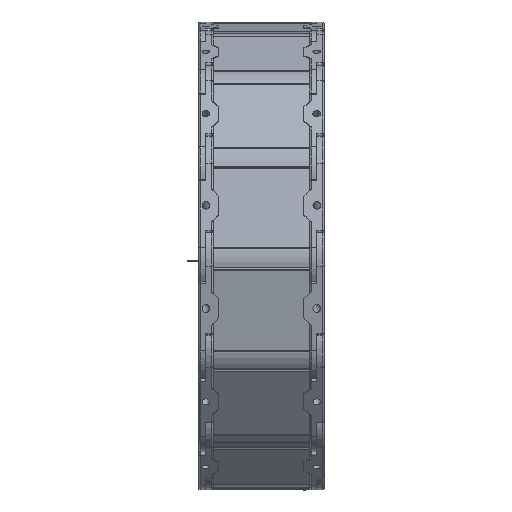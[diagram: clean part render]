
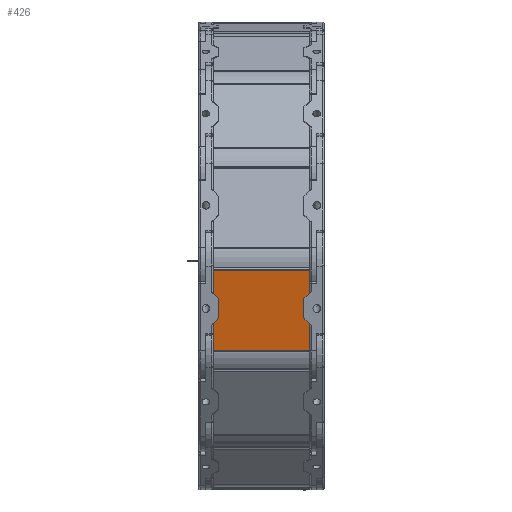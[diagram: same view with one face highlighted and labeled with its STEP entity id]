
A CAD part, front view. The second image highlights one B-rep face of the part: STEP entity #426.
In plain terms, the highlighted planar face has unit normal (0, -0.978, -0.208) as drawn and (0, 0, -1) by its records, which use the part's own axes.
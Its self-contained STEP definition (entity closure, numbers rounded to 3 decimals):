
#200=CARTESIAN_POINT('',(15.,61.0,1.));
#201=VERTEX_POINT('',#200);
#233=CARTESIAN_POINT('',(15.,89.782,1.));
#234=VERTEX_POINT('',#233);
#242=CARTESIAN_POINT('',(15.,83.92,1.));
#243=VERTEX_POINT('',#242);
#244=CARTESIAN_POINT('',(15.,83.92,1.));
#245=DIRECTION('',(0.0,1.0,0.0));
#246=VECTOR('',#245,5.863);
#247=LINE('',#244,#246);
#248=EDGE_CURVE('',#243,#234,#247,.T.);
#266=CARTESIAN_POINT('',(15.,82.64,1.));
#267=VERTEX_POINT('',#266);
#274=CARTESIAN_POINT('',(15.,61.0,1.));
#275=DIRECTION('',(0.0,1.0,0.0));
#276=VECTOR('',#275,21.64);
#277=LINE('',#274,#276);
#278=EDGE_CURVE('',#201,#267,#277,.T.);
#298=CARTESIAN_POINT('',(15.,29.,1.));
#299=VERTEX_POINT('',#298);
#306=CARTESIAN_POINT('',(15.,5.187,1.));
#307=VERTEX_POINT('',#306);
#308=CARTESIAN_POINT('',(15.,5.187,1.));
#309=DIRECTION('',(0.0,1.0,0.0));
#310=VECTOR('',#309,23.813);
#311=LINE('',#308,#310);
#312=EDGE_CURVE('',#307,#299,#311,.T.);
#333=CARTESIAN_POINT('',(50.371,89.782,1.));
#334=DIRECTION('',(0.0,0.0,1.0));
#335=DIRECTION('',(-1.0,0.0,0.0));
#336=AXIS2_PLACEMENT_3D('',#333,#334,#335);
#337=PLANE('',#336);
#338=CARTESIAN_POINT('',(21.,35.,1.));
#339=VERTEX_POINT('',#338);
#340=CARTESIAN_POINT('',(21.,35.,1.));
#341=DIRECTION('',(-0.707,-0.707,0.));
#342=VECTOR('',#341,8.485);
#343=LINE('',#340,#342);
#344=EDGE_CURVE('',#339,#299,#343,.T.);
#345=ORIENTED_EDGE('',*,*,#344,.F.);
#346=CARTESIAN_POINT('',(21.0,55.,1.));
#347=VERTEX_POINT('',#346);
#348=CARTESIAN_POINT('',(21.0,55.,1.));
#349=DIRECTION('',(0.0,-1.0,0.0));
#350=VECTOR('',#349,20.0);
#351=LINE('',#348,#350);
#352=EDGE_CURVE('',#347,#339,#351,.T.);
#353=ORIENTED_EDGE('',*,*,#352,.F.);
#354=CARTESIAN_POINT('',(15.,61.0,1.));
#355=DIRECTION('',(0.707,-0.707,0.));
#356=VECTOR('',#355,8.485);
#357=LINE('',#354,#356);
#358=EDGE_CURVE('',#201,#347,#357,.T.);
#359=ORIENTED_EDGE('',*,*,#358,.F.);
#360=ORIENTED_EDGE('',*,*,#278,.T.);
#361=CARTESIAN_POINT('',(13.929,83.28,1.));
#362=DIRECTION('',(0.0,0.0,-1.0));
#363=DIRECTION('',(1.0,0.0,0.0));
#364=AXIS2_PLACEMENT_3D('',#361,#362,#363);
#365=CIRCLE('',#364,1.247);
#366=EDGE_CURVE('',#243,#267,#365,.T.);
#367=ORIENTED_EDGE('',*,*,#366,.F.);
#368=ORIENTED_EDGE('',*,*,#248,.T.);
#369=CARTESIAN_POINT('',(115.,89.782,1.));
#370=VERTEX_POINT('',#369);
#371=CARTESIAN_POINT('',(115.,89.782,1.));
#372=DIRECTION('',(-1.0,0.0,0.0));
#373=VECTOR('',#372,100.);
#374=LINE('',#371,#373);
#375=EDGE_CURVE('',#370,#234,#374,.T.);
#376=ORIENTED_EDGE('',*,*,#375,.F.);
#377=CARTESIAN_POINT('',(115.,61.,1.));
#378=VERTEX_POINT('',#377);
#379=CARTESIAN_POINT('',(115.,89.782,1.));
#380=DIRECTION('',(0.0,-1.0,0.0));
#381=VECTOR('',#380,28.782);
#382=LINE('',#379,#381);
#383=EDGE_CURVE('',#370,#378,#382,.T.);
#384=ORIENTED_EDGE('',*,*,#383,.T.);
#385=CARTESIAN_POINT('',(109.,55.,1.));
#386=VERTEX_POINT('',#385);
#387=CARTESIAN_POINT('',(109.,55.,1.));
#388=DIRECTION('',(0.707,0.707,0.));
#389=VECTOR('',#388,8.485);
#390=LINE('',#387,#389);
#391=EDGE_CURVE('',#386,#378,#390,.T.);
#392=ORIENTED_EDGE('',*,*,#391,.F.);
#393=CARTESIAN_POINT('',(109.,35.,1.));
#394=VERTEX_POINT('',#393);
#395=CARTESIAN_POINT('',(109.,35.,1.));
#396=DIRECTION('',(0.0,1.0,0.0));
#397=VECTOR('',#396,20.);
#398=LINE('',#395,#397);
#399=EDGE_CURVE('',#394,#386,#398,.T.);
#400=ORIENTED_EDGE('',*,*,#399,.F.);
#401=CARTESIAN_POINT('',(115.,29.,1.));
#402=VERTEX_POINT('',#401);
#403=CARTESIAN_POINT('',(115.,29.,1.));
#404=DIRECTION('',(-0.707,0.707,0.));
#405=VECTOR('',#404,8.485);
#406=LINE('',#403,#405);
#407=EDGE_CURVE('',#402,#394,#406,.T.);
#408=ORIENTED_EDGE('',*,*,#407,.F.);
#409=CARTESIAN_POINT('',(115.,5.187,1.));
#410=VERTEX_POINT('',#409);
#411=CARTESIAN_POINT('',(115.,29.,1.));
#412=DIRECTION('',(0.0,-1.0,0.0));
#413=VECTOR('',#412,23.813);
#414=LINE('',#411,#413);
#415=EDGE_CURVE('',#402,#410,#414,.T.);
#416=ORIENTED_EDGE('',*,*,#415,.T.);
#417=CARTESIAN_POINT('',(115.,5.187,1.));
#418=DIRECTION('',(-1.0,0.0,0.0));
#419=VECTOR('',#418,100.);
#420=LINE('',#417,#419);
#421=EDGE_CURVE('',#410,#307,#420,.T.);
#422=ORIENTED_EDGE('',*,*,#421,.T.);
#423=ORIENTED_EDGE('',*,*,#312,.T.);
#424=EDGE_LOOP('',(#345,#353,#359,#360,#367,#368,#376,#384,#392,#400,#408,#416,#422,#423));
#425=FACE_OUTER_BOUND('',#424,.T.);
#426=ADVANCED_FACE('',(#425),#337,.F.);
